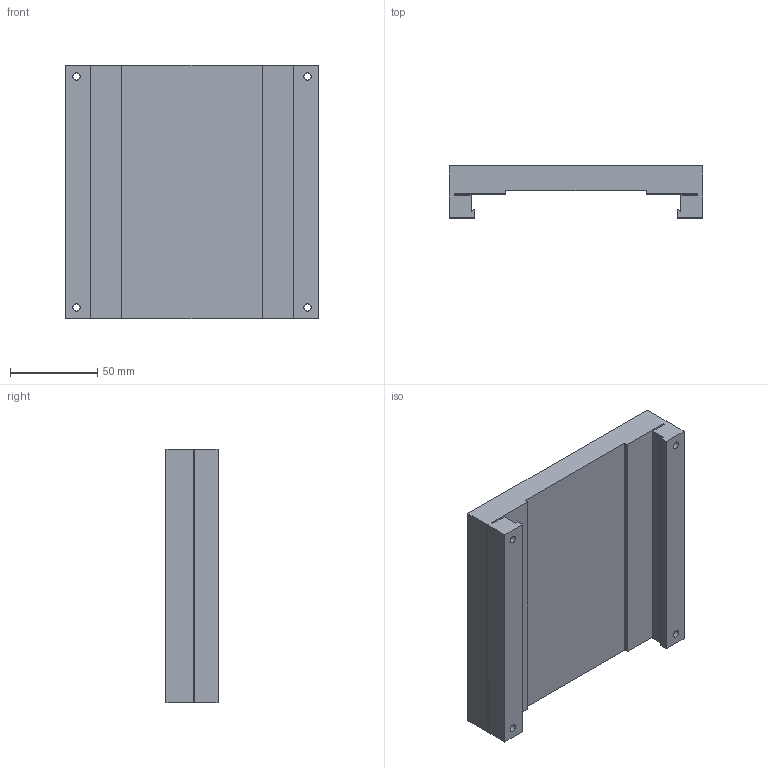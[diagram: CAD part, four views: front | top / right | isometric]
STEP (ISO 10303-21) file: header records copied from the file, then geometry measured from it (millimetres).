
FILE_DESCRIPTION (( 'STEP AP203' ), '1' );
FILE_NAME ('Montageplatte M120.STEP', '2002-07-08T13:05:53', ( '' ), ( '' ), 'SwSTEP 2.0', 'SolidWorks 2002127', '' );
FILE_SCHEMA (( 'CONFIG_CONTROL_DESIGN' ));
Length unit declared in the file: millimetre
Products named in the file (1): Montageplatte M120
Bounding box: 145 x 29.8 x 145 mm (x, y, z)
Volume: 359406.7 mm3; surface area: 69321.4 mm2
Topology: 1 solids, 1 shells, 58 faces, 156 edges, 104 vertices
Faces by surface type: plane 34, cylinder 24
Entity records: 1937 total; most frequent: DIRECTION 322, CARTESIAN_POINT 319, ORIENTED_EDGE 312, EDGE_CURVE 156, LINE 108, VECTOR 108, AXIS2_PLACEMENT_3D 107, VERTEX_POINT 104
